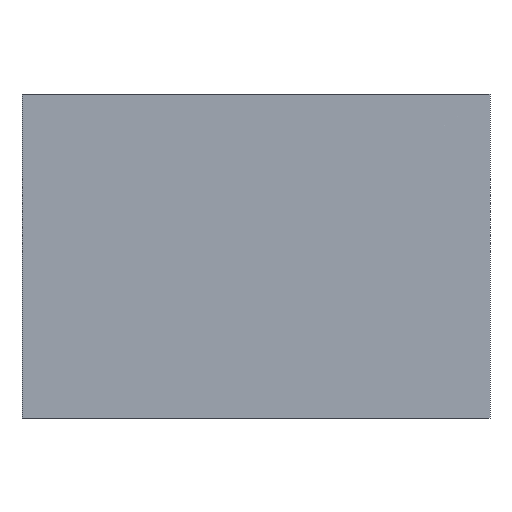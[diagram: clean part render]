
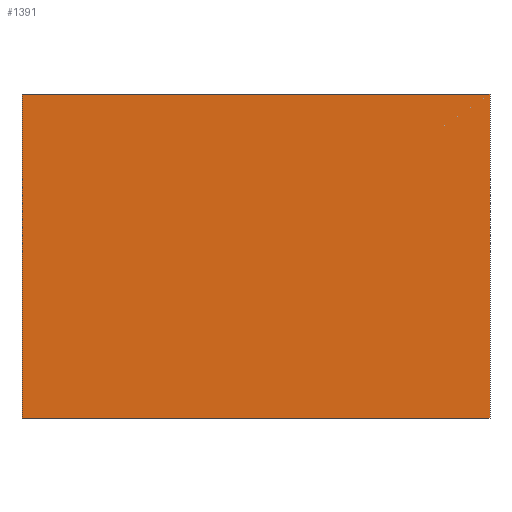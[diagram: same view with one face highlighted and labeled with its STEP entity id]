
A CAD part, front view. The second image highlights one B-rep face of the part: STEP entity #1391.
In plain terms, the highlighted planar face has unit normal (0, -1, 0).
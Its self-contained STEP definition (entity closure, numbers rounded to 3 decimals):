
#62 = VERTEX_POINT ( 'NONE', #1642 ) ;
#192 = DIRECTION ( 'NONE',  ( 0., 0., 1. ) ) ;
#463 = PLANE ( 'NONE',  #1177 ) ;
#560 = ORIENTED_EDGE ( 'NONE', *, *, #1907, .F. ) ;
#658 = DIRECTION ( 'NONE',  ( 0., 0., 1. ) ) ;
#742 = VECTOR ( 'NONE', #2016, 1000. ) ;
#908 = CARTESIAN_POINT ( 'NONE',  ( 32.5, 0., -22.5 ) ) ;
#944 = LINE ( 'NONE', #1293, #1872 ) ;
#1042 = VECTOR ( 'NONE', #2279, 1000. ) ;
#1103 = ORIENTED_EDGE ( 'NONE', *, *, #1729, .F. ) ;
#1149 = FACE_OUTER_BOUND ( 'NONE', #2237, .T. ) ;
#1175 = VERTEX_POINT ( 'NONE', #1568 ) ;
#1177 = AXIS2_PLACEMENT_3D ( 'NONE', #1387, #2131, #658 ) ;
#1293 = CARTESIAN_POINT ( 'NONE',  ( -32.5, 0., -22.5 ) ) ;
#1298 = DIRECTION ( 'NONE',  ( -1., 0., 0. ) ) ;
#1313 = VECTOR ( 'NONE', #192, 1000. ) ;
#1381 = ORIENTED_EDGE ( 'NONE', *, *, #1841, .F. ) ;
#1384 = LINE ( 'NONE', #1685, #1313 ) ;
#1387 = CARTESIAN_POINT ( 'NONE',  ( 0., 0., 0. ) ) ;
#1391 = ADVANCED_FACE ( 'NONE', ( #1149 ), #463, .F. ) ;
#1404 = ORIENTED_EDGE ( 'NONE', *, *, #2056, .F. ) ;
#1548 = CARTESIAN_POINT ( 'NONE',  ( -32.5, 0., 22.5 ) ) ;
#1568 = CARTESIAN_POINT ( 'NONE',  ( 32.5, 0., 22.5 ) ) ;
#1642 = CARTESIAN_POINT ( 'NONE',  ( -32.5, 0., -22.5 ) ) ;
#1685 = CARTESIAN_POINT ( 'NONE',  ( -32.5, 0., -22.5 ) ) ;
#1704 = CARTESIAN_POINT ( 'NONE',  ( -32.5, 0., 22.5 ) ) ;
#1729 = EDGE_CURVE ( 'NONE', #1175, #2094, #2220, .T. ) ;
#1841 = EDGE_CURVE ( 'NONE', #2094, #62, #944, .T. ) ;
#1872 = VECTOR ( 'NONE', #1298, 1000. ) ;
#1907 = EDGE_CURVE ( 'NONE', #62, #2037, #1384, .T. ) ;
#2016 = DIRECTION ( 'NONE',  ( 0., 0., -1. ) ) ;
#2020 = LINE ( 'NONE', #1548, #1042 ) ;
#2037 = VERTEX_POINT ( 'NONE', #1704 ) ;
#2056 = EDGE_CURVE ( 'NONE', #2037, #1175, #2020, .T. ) ;
#2062 = CARTESIAN_POINT ( 'NONE',  ( 32.5, 0., -22.5 ) ) ;
#2094 = VERTEX_POINT ( 'NONE', #2062 ) ;
#2131 = DIRECTION ( 'NONE',  ( 0., 1., 0. ) ) ;
#2220 = LINE ( 'NONE', #908, #742 ) ;
#2237 = EDGE_LOOP ( 'NONE', ( #1103, #1404, #560, #1381 ) ) ;
#2279 = DIRECTION ( 'NONE',  ( 1., 0., 0. ) ) ;
